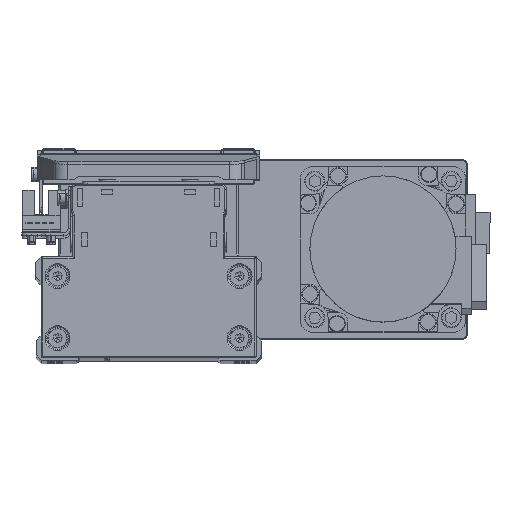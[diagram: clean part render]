
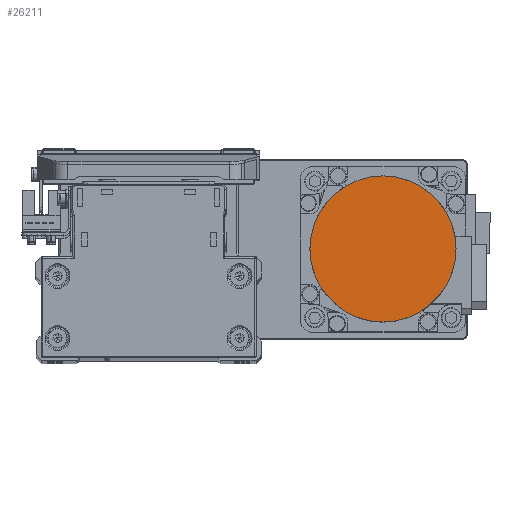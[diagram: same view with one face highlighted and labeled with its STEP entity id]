
A CAD part, top view. The second image highlights one B-rep face of the part: STEP entity #26211.
In plain terms, the highlighted planar face has unit normal (0, 0, 1) as drawn and (0, 0, -1) by its records, which use the part's own axes.
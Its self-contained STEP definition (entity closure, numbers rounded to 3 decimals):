
#917 = DIRECTION ( 'NONE',  ( 0., 0., 1. ) ) ;
#2717 = CARTESIAN_POINT ( 'NONE',  ( -26.5, 0., -109.7 ) ) ;
#3164 = CIRCLE ( 'NONE', #26335, 26.5 ) ;
#4038 = FACE_OUTER_BOUND ( 'NONE', #38131, .T. ) ;
#4196 = CARTESIAN_POINT ( 'NONE',  ( 26.5, 0., -109.7 ) ) ;
#8186 = DIRECTION ( 'NONE',  ( 0., 0., 1. ) ) ;
#11394 = ORIENTED_EDGE ( 'NONE', *, *, #40363, .F. ) ;
#11628 = CARTESIAN_POINT ( 'NONE',  ( 0., 0., -109.7 ) ) ;
#11907 = CIRCLE ( 'NONE', #35081, 26.5 ) ;
#13582 = DIRECTION ( 'NONE',  ( 1., 0., 0. ) ) ;
#16696 = PLANE ( 'NONE',  #22616 ) ;
#18825 = ORIENTED_EDGE ( 'NONE', *, *, #19450, .F. ) ;
#19450 = EDGE_CURVE ( 'NONE', #40966, #20597, #3164, .T. ) ;
#20597 = VERTEX_POINT ( 'NONE', #4196 ) ;
#20828 = DIRECTION ( 'NONE',  ( 1., 0., 0. ) ) ;
#22616 = AXIS2_PLACEMENT_3D ( 'NONE', #29338, #917, #13582 ) ;
#24271 = DIRECTION ( 'NONE',  ( 0., 0., 1. ) ) ;
#26211 = ADVANCED_FACE ( 'NONE', ( #4038 ), #16696, .F. ) ;
#26335 = AXIS2_PLACEMENT_3D ( 'NONE', #11628, #24271, #36919 ) ;
#29338 = CARTESIAN_POINT ( 'NONE',  ( 0., 0., -109.7 ) ) ;
#35081 = AXIS2_PLACEMENT_3D ( 'NONE', #36577, #8186, #20828 ) ;
#36577 = CARTESIAN_POINT ( 'NONE',  ( 0., 0., -109.7 ) ) ;
#36919 = DIRECTION ( 'NONE',  ( -1., 0., 0. ) ) ;
#38131 = EDGE_LOOP ( 'NONE', ( #18825, #11394 ) ) ;
#40363 = EDGE_CURVE ( 'NONE', #20597, #40966, #11907, .T. ) ;
#40966 = VERTEX_POINT ( 'NONE', #2717 ) ;
